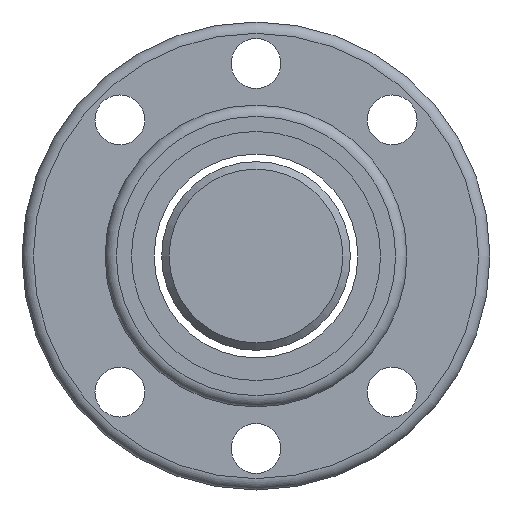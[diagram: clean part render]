
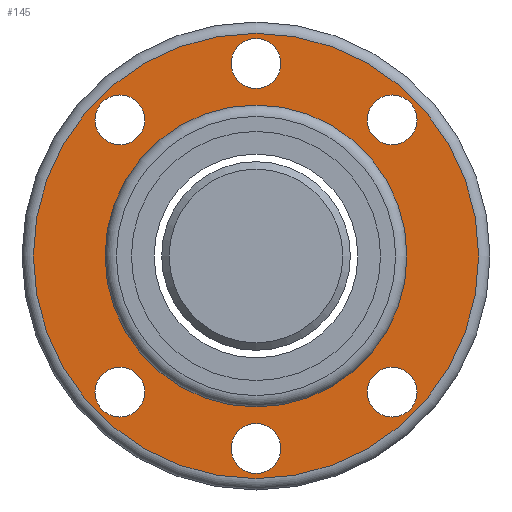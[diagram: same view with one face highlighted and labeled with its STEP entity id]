
A CAD part, left-side view. The second image highlights one B-rep face of the part: STEP entity #145.
In plain terms, the highlighted planar face has unit normal (-1, 0, 0).
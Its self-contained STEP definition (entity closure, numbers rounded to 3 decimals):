
#114=PLANE('',#534);
#127=FACE_OUTER_BOUND('',#271,.T.);
#145=ADVANCED_FACE('',(#196,#197,#198,#199,#200,#201,#127,#202),#114,.F.);
#196=FACE_BOUND('',#265,.T.);
#197=FACE_BOUND('',#266,.T.);
#198=FACE_BOUND('',#267,.T.);
#199=FACE_BOUND('',#268,.T.);
#200=FACE_BOUND('',#269,.T.);
#201=FACE_BOUND('',#270,.T.);
#202=FACE_BOUND('',#272,.T.);
#265=EDGE_LOOP('',(#339));
#266=EDGE_LOOP('',(#340));
#267=EDGE_LOOP('',(#341));
#268=EDGE_LOOP('',(#342));
#269=EDGE_LOOP('',(#343));
#270=EDGE_LOOP('',(#344));
#271=EDGE_LOOP('',(#345));
#272=EDGE_LOOP('',(#346));
#339=ORIENTED_EDGE('',*,*,#438,.T.);
#340=ORIENTED_EDGE('',*,*,#439,.T.);
#341=ORIENTED_EDGE('',*,*,#440,.T.);
#342=ORIENTED_EDGE('',*,*,#441,.T.);
#343=ORIENTED_EDGE('',*,*,#442,.T.);
#344=ORIENTED_EDGE('',*,*,#443,.T.);
#345=ORIENTED_EDGE('',*,*,#444,.F.);
#346=ORIENTED_EDGE('',*,*,#445,.T.);
#401=VERTEX_POINT('',#749);
#402=VERTEX_POINT('',#751);
#403=VERTEX_POINT('',#753);
#404=VERTEX_POINT('',#755);
#405=VERTEX_POINT('',#757);
#406=VERTEX_POINT('',#759);
#407=VERTEX_POINT('',#761);
#408=VERTEX_POINT('',#763);
#438=EDGE_CURVE('',#401,#401,#475,.T.);
#439=EDGE_CURVE('',#402,#402,#476,.T.);
#440=EDGE_CURVE('',#403,#403,#477,.T.);
#441=EDGE_CURVE('',#404,#404,#478,.T.);
#442=EDGE_CURVE('',#405,#405,#479,.T.);
#443=EDGE_CURVE('',#406,#406,#480,.T.);
#444=EDGE_CURVE('',#407,#407,#481,.T.);
#445=EDGE_CURVE('',#408,#408,#482,.T.);
#475=CIRCLE('',#526,3.3);
#476=CIRCLE('',#527,3.3);
#477=CIRCLE('',#528,3.3);
#478=CIRCLE('',#529,3.3);
#479=CIRCLE('',#530,3.3);
#480=CIRCLE('',#531,3.3);
#481=CIRCLE('',#532,29.5);
#482=CIRCLE('',#533,20.);
#526=AXIS2_PLACEMENT_3D('',#748,#622,#623);
#527=AXIS2_PLACEMENT_3D('',#750,#624,#625);
#528=AXIS2_PLACEMENT_3D('',#752,#626,#627);
#529=AXIS2_PLACEMENT_3D('',#754,#628,#629);
#530=AXIS2_PLACEMENT_3D('',#756,#630,#631);
#531=AXIS2_PLACEMENT_3D('',#758,#632,#633);
#532=AXIS2_PLACEMENT_3D('',#760,#634,#635);
#533=AXIS2_PLACEMENT_3D('',#762,#636,#637);
#534=AXIS2_PLACEMENT_3D('',#764,#638,#639);
#622=DIRECTION('',(1.,0.,0.));
#623=DIRECTION('',(0.,1.,0.));
#624=DIRECTION('',(1.,0.,0.));
#625=DIRECTION('',(0.,1.,0.));
#626=DIRECTION('',(1.,0.,0.));
#627=DIRECTION('',(0.,1.,0.));
#628=DIRECTION('',(1.,0.,0.));
#629=DIRECTION('',(0.,1.,0.));
#630=DIRECTION('',(1.,0.,0.));
#631=DIRECTION('',(0.,1.,0.));
#632=DIRECTION('',(1.,0.,0.));
#633=DIRECTION('',(0.,1.,0.));
#634=DIRECTION('',(1.,0.,0.));
#635=DIRECTION('',(0.,1.,0.));
#636=DIRECTION('',(1.,0.,0.));
#637=DIRECTION('',(0.,1.,0.));
#638=DIRECTION('',(1.,0.,0.));
#639=DIRECTION('',(0.,1.,0.));
#748=CARTESIAN_POINT('',(-27.,0.,-25.5));
#749=CARTESIAN_POINT('',(-27.,3.3,-25.5));
#750=CARTESIAN_POINT('',(-27.,0.,25.5));
#751=CARTESIAN_POINT('',(-27.,3.3,25.5));
#752=CARTESIAN_POINT('',(-27.,18.03,-18.03));
#753=CARTESIAN_POINT('',(-27.,21.33,-18.03));
#754=CARTESIAN_POINT('',(-27.,-18.03,-18.03));
#755=CARTESIAN_POINT('',(-27.,-14.73,-18.03));
#756=CARTESIAN_POINT('',(-27.,-18.03,18.03));
#757=CARTESIAN_POINT('',(-27.,-14.73,18.03));
#758=CARTESIAN_POINT('',(-27.,18.03,18.03));
#759=CARTESIAN_POINT('',(-27.,21.33,18.03));
#760=CARTESIAN_POINT('',(-27.,0.,0.));
#761=CARTESIAN_POINT('',(-27.,29.5,0.));
#762=CARTESIAN_POINT('',(-27.,0.,0.));
#763=CARTESIAN_POINT('',(-27.,20.,0.));
#764=CARTESIAN_POINT('',(-27.,24.75,0.));
